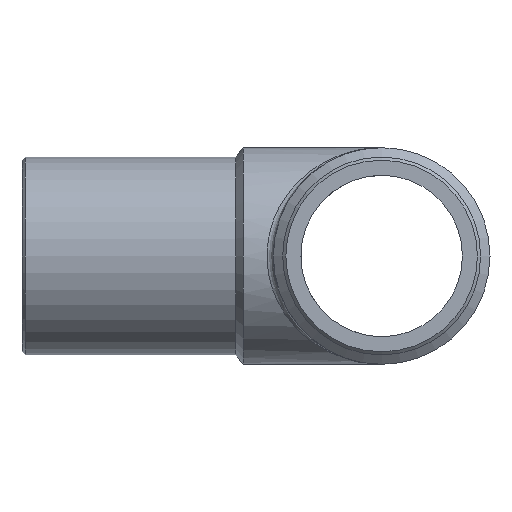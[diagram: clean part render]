
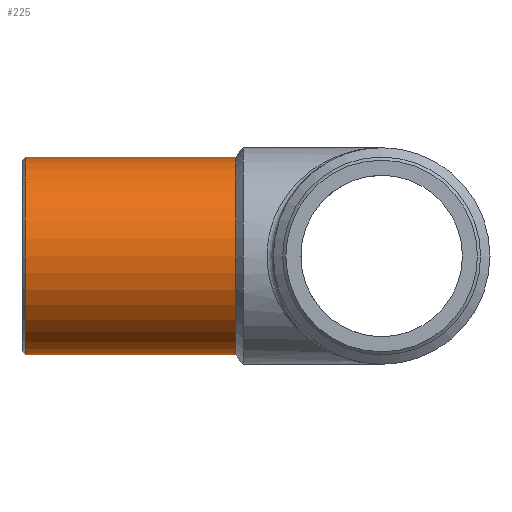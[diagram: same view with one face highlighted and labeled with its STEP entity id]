
A CAD part, left-side view. The second image highlights one B-rep face of the part: STEP entity #225.
In plain terms, the highlighted cylindrical face has radius 31.5 mm (diameter 63 mm), a full revolution.
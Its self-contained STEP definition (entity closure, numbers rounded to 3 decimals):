
#44=CIRCLE('',#275,31.5);
#45=CIRCLE('',#277,31.5);
#76=ORIENTED_EDGE('',*,*,#108,.T.);
#77=ORIENTED_EDGE('',*,*,#107,.F.);
#107=EDGE_CURVE('',#126,#126,#44,.T.);
#108=EDGE_CURVE('',#127,#127,#45,.F.);
#126=VERTEX_POINT('',#407);
#127=VERTEX_POINT('',#410);
#160=EDGE_LOOP('',(#76));
#161=EDGE_LOOP('',(#77));
#196=FACE_BOUND('',#160,.T.);
#197=FACE_BOUND('',#161,.T.);
#212=CYLINDRICAL_SURFACE('',#276,31.5);
#225=ADVANCED_FACE('',(#196,#197),#212,.T.);
#275=AXIS2_PLACEMENT_3D('',#406,#345,#346);
#276=AXIS2_PLACEMENT_3D('',#408,#347,#348);
#277=AXIS2_PLACEMENT_3D('',#409,#349,#350);
#345=DIRECTION('',(0.,-1.,0.));
#346=DIRECTION('',(1.,0.,0.));
#347=DIRECTION('',(0.,-1.,0.));
#348=DIRECTION('',(1.,0.,0.));
#349=DIRECTION('',(0.,1.,0.));
#350=DIRECTION('',(-1.,0.,0.));
#406=CARTESIAN_POINT('',(0.,46.5,0.));
#407=CARTESIAN_POINT('',(31.5,46.5,0.));
#408=CARTESIAN_POINT('',(0.,0.,0.));
#409=CARTESIAN_POINT('',(0.,113.5,0.));
#410=CARTESIAN_POINT('',(-31.5,113.5,0.));
